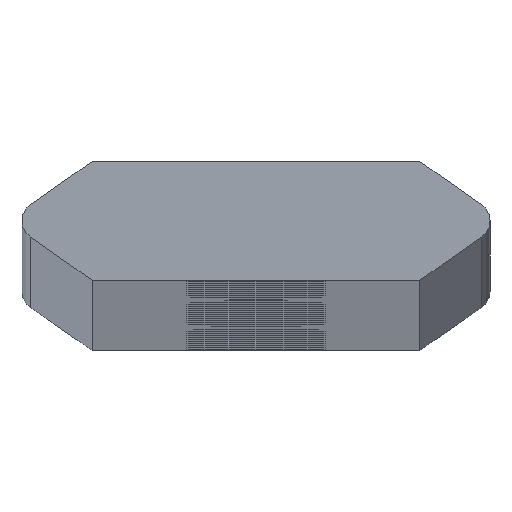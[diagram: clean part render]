
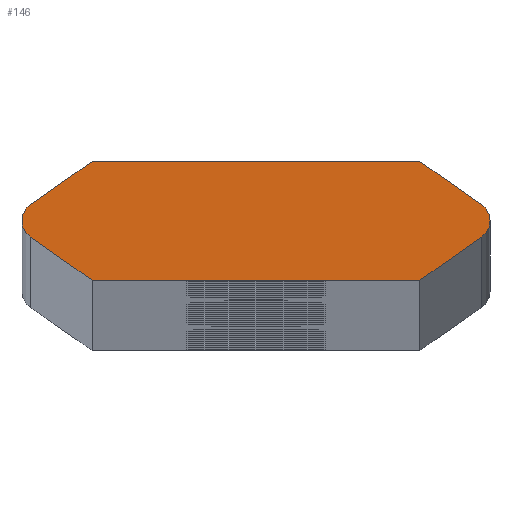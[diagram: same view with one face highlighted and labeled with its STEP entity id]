
A CAD part, top view. The second image highlights one B-rep face of the part: STEP entity #146.
In plain terms, the highlighted planar face has unit normal (0, 0, 1).
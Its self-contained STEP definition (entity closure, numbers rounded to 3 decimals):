
#146=ADVANCED_FACE('',(#298),#299,.T.);
#298=FACE_OUTER_BOUND('',#526,.T.);
#299=PLANE('',#527);
#526=EDGE_LOOP('',(#1109,#1110,#1111,#1112,#1113,#1114,#1115,#1116,#1117,#1118));
#527=AXIS2_PLACEMENT_3D('',#1119,#1120,#1121);
#1109=ORIENTED_EDGE('',*,*,#1325,.T.);
#1110=ORIENTED_EDGE('',*,*,#1534,.T.);
#1111=ORIENTED_EDGE('',*,*,#1535,.F.);
#1112=ORIENTED_EDGE('',*,*,#1536,.F.);
#1113=ORIENTED_EDGE('',*,*,#1537,.F.);
#1114=ORIENTED_EDGE('',*,*,#1321,.T.);
#1115=ORIENTED_EDGE('',*,*,#1538,.T.);
#1116=ORIENTED_EDGE('',*,*,#1539,.F.);
#1117=ORIENTED_EDGE('',*,*,#1540,.F.);
#1118=ORIENTED_EDGE('',*,*,#1541,.F.);
#1119=CARTESIAN_POINT('',(0.,0.,1016.0));
#1120=DIRECTION('',(0.0,0.0,1.0));
#1121=DIRECTION('',(1.0,0.0,0.0));
#1321=EDGE_CURVE('',#1557,#1554,#1558,.T.);
#1325=EDGE_CURVE('',#1565,#1562,#1566,.T.);
#1534=EDGE_CURVE('',#1562,#1912,#1914,.T.);
#1535=EDGE_CURVE('',#1915,#1912,#1916,.T.);
#1536=EDGE_CURVE('',#1917,#1915,#1918,.T.);
#1537=EDGE_CURVE('',#1557,#1917,#1919,.T.);
#1538=EDGE_CURVE('',#1554,#1920,#1921,.T.);
#1539=EDGE_CURVE('',#1922,#1920,#1923,.T.);
#1540=EDGE_CURVE('',#1924,#1922,#1925,.T.);
#1541=EDGE_CURVE('',#1565,#1924,#1926,.T.);
#1554=VERTEX_POINT('',#1944);
#1557=VERTEX_POINT('',#1948);
#1558=CIRCLE('',#1949,0.5);
#1562=VERTEX_POINT('',#1954);
#1565=VERTEX_POINT('',#1958);
#1566=CIRCLE('',#1959,0.5);
#1912=VERTEX_POINT('',#2374);
#1914=CIRCLE('',#2377,0.5);
#1915=VERTEX_POINT('',#2378);
#1916=LINE('',#2379,#2380);
#1917=VERTEX_POINT('',#2381);
#1918=LINE('',#2382,#2383);
#1919=LINE('',#2384,#2385);
#1920=VERTEX_POINT('',#2386);
#1921=CIRCLE('',#2387,0.5);
#1922=VERTEX_POINT('',#2388);
#1923=LINE('',#2389,#2390);
#1924=VERTEX_POINT('',#2391);
#1925=LINE('',#2392,#2393);
#1926=LINE('',#2394,#2395);
#1944=CARTESIAN_POINT('',(5.903,0.,1016.0));
#1948=CARTESIAN_POINT('',(5.693,-0.407,1016.0));
#1949=AXIS2_PLACEMENT_3D('',#2425,#2426,#2427);
#1954=CARTESIAN_POINT('',(-5.903,0.,1016.0));
#1958=CARTESIAN_POINT('',(-5.693,0.407,1016.0));
#1959=AXIS2_PLACEMENT_3D('',#2433,#2434,#2435);
#2374=CARTESIAN_POINT('',(-5.693,-0.407,1016.0));
#2377=AXIS2_PLACEMENT_3D('',#2920,#2921,#2922);
#2378=CARTESIAN_POINT('',(-4.133,-1.5,1016.0));
#2379=CARTESIAN_POINT('',(-6.275,0.,1016.0));
#2380=VECTOR('',#2923,1.0);
#2381=CARTESIAN_POINT('',(4.133,-1.5,1016.0));
#2382=CARTESIAN_POINT('',(4.133,-1.5,1016.0));
#2383=VECTOR('',#2924,1.0);
#2384=CARTESIAN_POINT('',(6.275,0.0,1016.0));
#2385=VECTOR('',#2925,1.0);
#2386=CARTESIAN_POINT('',(5.693,0.407,1016.0));
#2387=AXIS2_PLACEMENT_3D('',#2926,#2927,#2928);
#2388=CARTESIAN_POINT('',(4.133,1.5,1016.0));
#2389=CARTESIAN_POINT('',(6.275,0.0,1016.0));
#2390=VECTOR('',#2929,1.0);
#2391=CARTESIAN_POINT('',(-4.133,1.5,1016.0));
#2392=CARTESIAN_POINT('',(-4.133,1.5,1016.0));
#2393=VECTOR('',#2930,1.0);
#2394=CARTESIAN_POINT('',(-6.275,0.,1016.0));
#2395=VECTOR('',#2931,1.0);
#2425=CARTESIAN_POINT('',(5.403,0.0,1016.0));
#2426=DIRECTION('',(0.0,0.0,1.0));
#2427=DIRECTION('',(1.0,0.0,0.0));
#2433=CARTESIAN_POINT('',(-5.403,0.,1016.0));
#2434=DIRECTION('',(0.0,0.0,1.0));
#2435=DIRECTION('',(-1.0,0.,0.0));
#2920=CARTESIAN_POINT('',(-5.403,0.,1016.0));
#2921=DIRECTION('',(0.0,0.0,1.0));
#2922=DIRECTION('',(-1.0,0.,0.0));
#2923=DIRECTION('',(-0.819,0.574,0.0));
#2924=DIRECTION('',(-1.0,0.,0.0));
#2925=DIRECTION('',(-0.819,-0.574,0.0));
#2926=CARTESIAN_POINT('',(5.403,0.0,1016.0));
#2927=DIRECTION('',(0.0,0.0,1.0));
#2928=DIRECTION('',(1.0,0.0,0.0));
#2929=DIRECTION('',(0.819,-0.574,0.0));
#2930=DIRECTION('',(1.0,0.,0.0));
#2931=DIRECTION('',(0.819,0.574,0.0));
